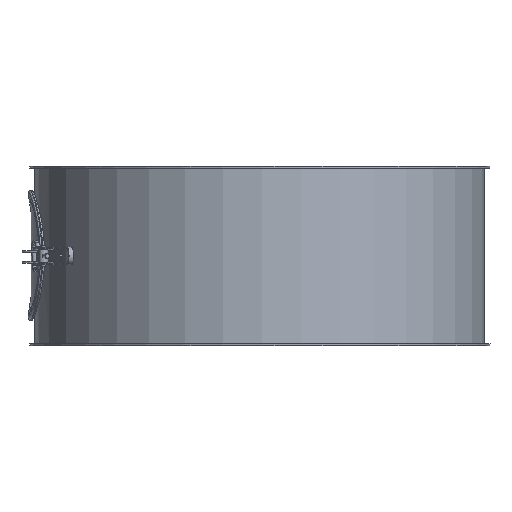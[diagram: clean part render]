
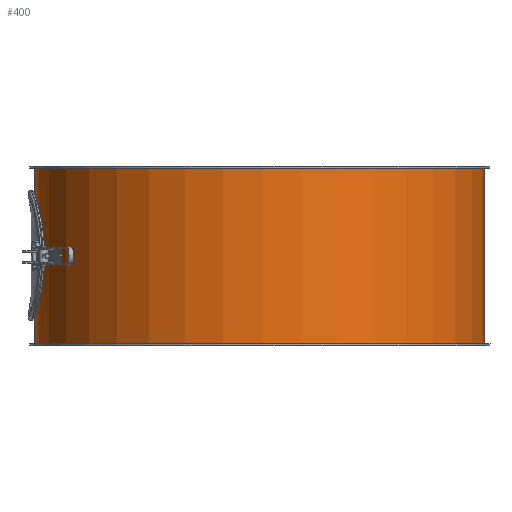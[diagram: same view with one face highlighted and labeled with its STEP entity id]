
A CAD part, front view. The second image highlights one B-rep face of the part: STEP entity #400.
In plain terms, the highlighted cylindrical face has radius 250.5 mm (diameter 501 mm), a full revolution.
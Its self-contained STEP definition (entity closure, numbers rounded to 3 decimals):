
#143=CARTESIAN_POINT('',(250.5,0.,198.0));
#144=VERTEX_POINT('',#143);
#145=CARTESIAN_POINT('',(0.0,0.0,198.0));
#146=DIRECTION('',(0.0,0.0,-1.0));
#147=DIRECTION('',(-1.0,0.0,0.0));
#148=AXIS2_PLACEMENT_3D('',#145,#146,#147);
#149=CIRCLE('',#148,250.5);
#150=EDGE_CURVE('',#144,#144,#149,.T.);
#191=CARTESIAN_POINT('',(-250.5,0.,2.0));
#192=VERTEX_POINT('',#191);
#193=CARTESIAN_POINT('',(0.0,0.0,2.0));
#194=DIRECTION('',(0.0,0.0,1.0));
#195=DIRECTION('',(-1.0,0.0,0.0));
#196=AXIS2_PLACEMENT_3D('',#193,#194,#195);
#197=CIRCLE('',#196,250.5);
#198=EDGE_CURVE('',#192,#192,#197,.T.);
#281=CARTESIAN_POINT('',(-243.811,-57.5,100.));
#282=VERTEX_POINT('',#281);
#283=CARTESIAN_POINT('',(-243.811,-57.5,100.));
#284=CARTESIAN_POINT('',(-243.811,-57.5,96.376));
#285=CARTESIAN_POINT('',(-243.894,-57.152,92.632));
#286=CARTESIAN_POINT('',(-244.232,-55.69,85.194));
#287=CARTESIAN_POINT('',(-244.487,-54.577,81.499));
#288=CARTESIAN_POINT('',(-245.124,-51.639,74.42));
#289=CARTESIAN_POINT('',(-245.507,-49.812,71.03));
#290=CARTESIAN_POINT('',(-246.325,-45.595,64.763));
#291=CARTESIAN_POINT('',(-246.76,-43.204,61.887));
#292=CARTESIAN_POINT('',(-247.597,-38.113,56.796));
#293=CARTESIAN_POINT('',(-248.029,-35.237,54.406));
#294=CARTESIAN_POINT('',(-248.839,-28.971,50.188));
#295=CARTESIAN_POINT('',(-249.216,-25.58,48.361));
#296=CARTESIAN_POINT('',(-249.841,-18.5,45.423));
#297=CARTESIAN_POINT('',(-250.09,-14.805,44.31));
#298=CARTESIAN_POINT('',(-250.419,-7.367,42.848));
#299=CARTESIAN_POINT('',(-250.5,-3.624,42.5));
#300=CARTESIAN_POINT('',(-250.5,3.624,42.5));
#301=CARTESIAN_POINT('',(-250.419,7.367,42.848));
#302=CARTESIAN_POINT('',(-250.09,14.805,44.31));
#303=CARTESIAN_POINT('',(-249.841,18.5,45.423));
#304=CARTESIAN_POINT('',(-249.216,25.58,48.361));
#305=CARTESIAN_POINT('',(-248.839,28.971,50.188));
#306=CARTESIAN_POINT('',(-248.029,35.237,54.406));
#307=CARTESIAN_POINT('',(-247.597,38.113,56.796));
#308=CARTESIAN_POINT('',(-246.76,43.204,61.887));
#309=CARTESIAN_POINT('',(-246.325,45.595,64.763));
#310=CARTESIAN_POINT('',(-245.507,49.812,71.03));
#311=CARTESIAN_POINT('',(-245.124,51.639,74.42));
#312=CARTESIAN_POINT('',(-244.487,54.577,81.499));
#313=CARTESIAN_POINT('',(-244.232,55.69,85.194));
#314=CARTESIAN_POINT('',(-243.894,57.152,92.632));
#315=CARTESIAN_POINT('',(-243.811,57.5,96.376));
#316=CARTESIAN_POINT('',(-243.811,57.5,103.624));
#317=CARTESIAN_POINT('',(-243.894,57.152,107.368));
#318=CARTESIAN_POINT('',(-244.232,55.69,114.806));
#319=CARTESIAN_POINT('',(-244.487,54.577,118.501));
#320=CARTESIAN_POINT('',(-245.124,51.639,125.58));
#321=CARTESIAN_POINT('',(-245.507,49.812,128.97));
#322=CARTESIAN_POINT('',(-246.325,45.595,135.237));
#323=CARTESIAN_POINT('',(-246.76,43.204,138.113));
#324=CARTESIAN_POINT('',(-247.597,38.113,143.204));
#325=CARTESIAN_POINT('',(-248.029,35.237,145.594));
#326=CARTESIAN_POINT('',(-248.839,28.971,149.812));
#327=CARTESIAN_POINT('',(-249.216,25.58,151.639));
#328=CARTESIAN_POINT('',(-249.841,18.5,154.577));
#329=CARTESIAN_POINT('',(-250.09,14.805,155.69));
#330=CARTESIAN_POINT('',(-250.419,7.367,157.152));
#331=CARTESIAN_POINT('',(-250.5,3.624,157.5));
#332=CARTESIAN_POINT('',(-250.5,-3.624,157.5));
#333=CARTESIAN_POINT('',(-250.419,-7.367,157.152));
#334=CARTESIAN_POINT('',(-250.09,-14.805,155.69));
#335=CARTESIAN_POINT('',(-249.841,-18.5,154.577));
#336=CARTESIAN_POINT('',(-249.216,-25.58,151.639));
#337=CARTESIAN_POINT('',(-248.839,-28.971,149.812));
#338=CARTESIAN_POINT('',(-248.029,-35.237,145.594));
#339=CARTESIAN_POINT('',(-247.597,-38.113,143.204));
#340=CARTESIAN_POINT('',(-246.76,-43.204,138.113));
#341=CARTESIAN_POINT('',(-246.325,-45.595,135.237));
#342=CARTESIAN_POINT('',(-245.507,-49.812,128.97));
#343=CARTESIAN_POINT('',(-245.124,-51.639,125.58));
#344=CARTESIAN_POINT('',(-244.487,-54.577,118.501));
#345=CARTESIAN_POINT('',(-244.232,-55.69,114.806));
#346=CARTESIAN_POINT('',(-243.894,-57.152,107.368));
#347=CARTESIAN_POINT('',(-243.811,-57.5,103.624));
#348=CARTESIAN_POINT('',(-243.811,-57.5,100.0));
#349=B_SPLINE_CURVE_WITH_KNOTS('',3,(#283,#284,#285,#286,#287,#288,#289,#290,#291,#292,#293,#294,#295,#296,#297,#298,#299,#300,#301,#302,#303,#304,#305,#306,#307,#308,#309,#310,#311,#312,#313,#314,#315,#316,#317,#318,#319,#320,#321,#322,#323,#324,#325,#326,#327,#328,#329,#330,#331,#332,#333,#334,#335,#336,#337,#338,#339,#340,#341,#342,#343,#344,#345,#346,#347,#348),.UNSPECIFIED.,.T.,.U.,(4,2,2,2,2,2,2,2,2,2,2,2,2,2,2,2,2,2,2,2,2,2,2,2,2,2,2,2,2,2,2,2,4),(0.0,1.087,2.174,3.262,4.349,5.436,6.523,7.61,8.697,9.784,10.871,11.959,13.046,14.133,15.22,16.307,17.395,18.482,19.569,20.656,21.743,22.83,23.918,25.005,26.092,27.179,28.266,29.353,30.44,31.527,32.615,33.702,34.789),.UNSPECIFIED.);
#350=EDGE_CURVE('',#282,#282,#349,.T.);
#386=CARTESIAN_POINT('',(0.0,0.0,0.0));
#387=DIRECTION('',(0.0,0.0,1.0));
#388=DIRECTION('',(-1.0,0.0,0.0));
#389=AXIS2_PLACEMENT_3D('',#386,#387,#388);
#390=CYLINDRICAL_SURFACE('',#389,250.5);
#391=ORIENTED_EDGE('',*,*,#150,.T.);
#392=EDGE_LOOP('',(#391));
#393=FACE_OUTER_BOUND('',#392,.T.);
#394=ORIENTED_EDGE('',*,*,#198,.T.);
#395=EDGE_LOOP('',(#394));
#396=FACE_BOUND('',#395,.T.);
#397=ORIENTED_EDGE('',*,*,#350,.T.);
#398=EDGE_LOOP('',(#397));
#399=FACE_BOUND('',#398,.T.);
#400=ADVANCED_FACE('',(#393,#396,#399),#390,.T.);
